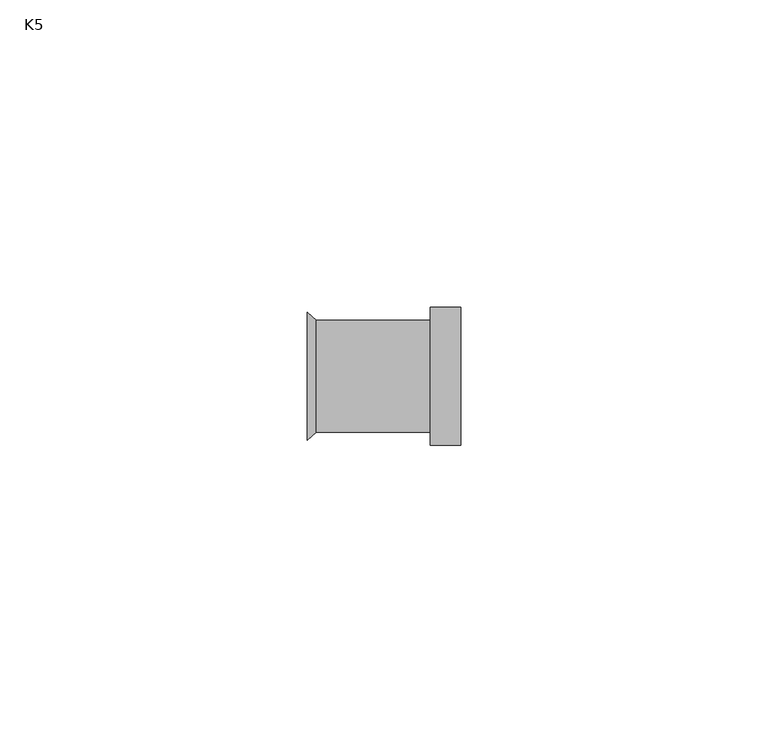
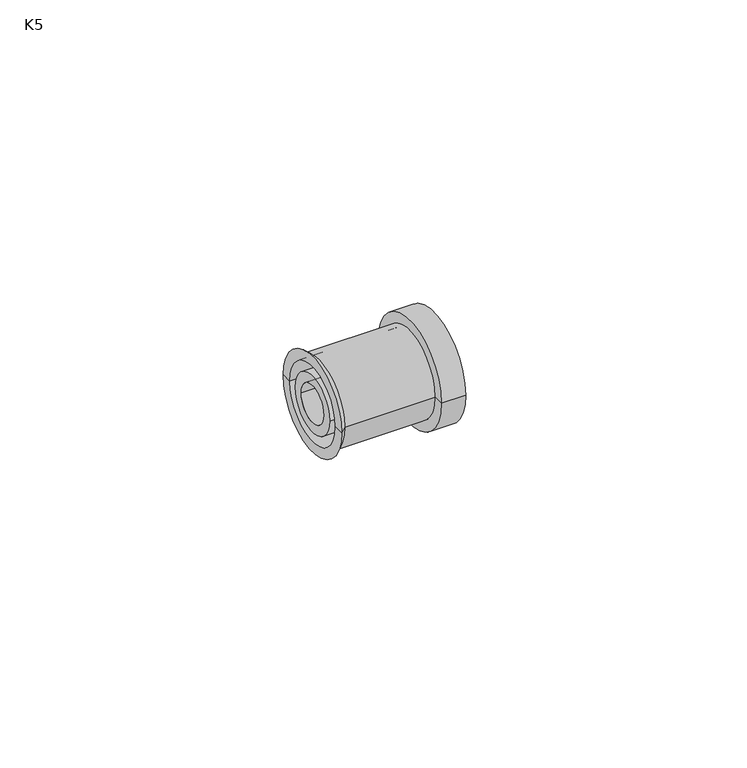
"""IFC4 building model written with IfcOpenShell, lengths in millimetres: pipe fitting geometry, AmancoWavin_ConexõesdeTubos_K5ZNãoUsarCampana : K5."""

from ifc_helpers import new_model, si_unit, point, frame, origin, origin_2d, place, context, project, spatial, polyline, circle_curve, trimmed, segment, composite_curve, outline, extrude, source, transform, mapped, element, save
from ifc_brep_helpers import plane_surface, cylinder_surface, revolved_surface, advanced_brep


def k5_c3ecb90c(model_context):
    return source(origin(), model_context, "Body", "SolidModel", [
        advanced_brep(
        [(-5.0, -9.1, 0.0), (-5.0, 9.1, 0.0), (-5.0, 11.25, 0.0), (-5.0, -11.25, 0.0), (-23.5489984, -9.1, 0.0), (-23.5489984, 9.1, 0.0), (-25.0, -8.2, 0.0), (-25.0, 8.2, 0.0), (-25.0, 10.4, 0.0), (-25.0, -10.4, 0.0), (-5.0, -8.2, 0.0), (-5.0, 8.2, 0.0), (-5.0, 0.0, 0.0), (0.0, -11.25, 0.0), (0.0, 11.25, 0.0), (0.0, 0.0, 0.0)],
        [
            (0, 1, circle_curve(frame((-5.0, 0.0, 0.0), z_axis=(1.0, 0.0, 0.0), x_axis=(0.0, 1.0, 0.0)), 9.1)),
            (1, 2),
            (2, 3, circle_curve(frame((-5.0, 0.0, 0.0), z_axis=(-1.0, 0.0, 0.0), x_axis=(0.0, 1.0, 0.0)), 11.25)),
            (3, 0),
            (1, 0, circle_curve(frame((-5.0, 0.0, 0.0), z_axis=(1.0, 0.0, 0.0), x_axis=(0.0, 1.0, 0.0)), 9.1)),
            (3, 2, circle_curve(frame((-5.0, 0.0, 0.0), z_axis=(-1.0, 0.0, 0.0), x_axis=(0.0, 1.0, 0.0)), 11.25)),
            (4, 5, circle_curve(frame((-23.5489984, 0.0, 0.0), z_axis=(1.0, 0.0, 0.0), x_axis=(0.0, 1.0, 0.0)), 9.1)),
            (5, 1),
            (0, 4),
            (5, 4, circle_curve(frame((-23.5489984, 0.0, 0.0), z_axis=(1.0, 0.0, 0.0), x_axis=(0.0, 1.0, 0.0)), 9.1)),
            (6, 7, circle_curve(frame((-25.0, 0.0, 0.0), z_axis=(1.0, 0.0, 0.0), x_axis=(0.0, 1.0, 0.0)), 8.2)),
            (7, 8),
            (8, 9, circle_curve(frame((-25.0, 0.0, 0.0), z_axis=(-1.0, 0.0, 0.0), x_axis=(0.0, 1.0, 0.0)), 10.4)),
            (9, 6),
            (7, 6, circle_curve(frame((-25.0, 0.0, 0.0), z_axis=(1.0, 0.0, 0.0), x_axis=(0.0, 1.0, 0.0)), 8.2)),
            (9, 8, circle_curve(frame((-25.0, 0.0, 0.0), z_axis=(-1.0, 0.0, 0.0), x_axis=(0.0, 1.0, 0.0)), 10.4)),
            (10, 11, circle_curve(frame((-5.0, 0.0, 0.0), z_axis=(1.0, 0.0, 0.0), x_axis=(0.0, 1.0, 0.0)), 8.2)),
            (11, 7),
            (6, 10),
            (11, 10, circle_curve(frame((-5.0, 0.0, 0.0), z_axis=(1.0, 0.0, 0.0), x_axis=(0.0, 1.0, 0.0)), 8.2)),
            (12, 11),
            (10, 12),
            (13, 14, circle_curve(frame((0.0, 0.0, 0.0), z_axis=(1.0, 0.0, 0.0), x_axis=(0.0, 1.0, 0.0)), 11.25)),
            (14, 15),
            (15, 13),
            (14, 13, circle_curve(frame((0.0, 0.0, 0.0), z_axis=(1.0, 0.0, 0.0), x_axis=(0.0, 1.0, 0.0)), 11.25)),
            (2, 14),
            (13, 3),
            (8, 5),
            (4, 9),
        ],
        [
            plane_surface(frame((-5.0, 0.0, 0.0), z_axis=(-1.0, 0.0, 0.0), x_axis=(0.0, 1.0, 0.0))),
            cylinder_surface(frame((1999.0, 0.0, 0.0), z_axis=(-1.0, 0.0, 0.0), x_axis=(0.0, 1.0, 0.0)), 9.1),
            plane_surface(frame((-25.0, 0.0, 0.0), z_axis=(-1.0, 0.0, 0.0), x_axis=(0.0, 1.0, 0.0))),
            revolved_surface(polyline([(-25.0, 8.2, 0.0), (-5.0, 8.2, 0.0)]), (1999.0, 0.0, 0.0), (-1.0, 0.0, 0.0)),
            plane_surface(frame((0.0, 0.0, 0.0), z_axis=(1.0, 0.0, 0.0), x_axis=(0.0, 1.0, 0.0))),
            cylinder_surface(frame((1999.0, 0.0, 0.0), z_axis=(-1.0, 0.0, 0.0), x_axis=(0.0, 1.0, 0.0)), 11.25),
            revolved_surface(polyline([(-23.5489984, 9.1, 0.0), (-25.0, 10.4, 0.0)]), (1999.0, 0.0, 0.0), (-1.0, 0.0, 0.0)),
        ],
        [
            (0, [[1, 2, 3, 4]]),
            (0, [[5, -4, 6, -2]]),
            (1, [[7, 8, -1, 9]]),
            (1, [[10, -9, -5, -8]]),
            (2, [[11, 12, 13, 14]]),
            (2, [[15, -14, 16, -12]]),
            (3, [[17, 18, -11, 19]]),
            (3, [[20, -19, -15, -18]]),
            (0, [[21, -17, 22]]),
            (0, [[-22, -20, -21]]),
            (4, [[23, 24, 25]]),
            (4, [[26, -25, -24]]),
            (5, [[-3, 27, -23, 28]]),
            (5, [[-6, -28, -26, -27]]),
            (6, [[-13, 29, -7, 30]]),
            (6, [[-16, -30, -10, -29]]),
        ],
    ),
        extrude(outline(composite_curve([segment(trimmed(circle_curve(origin_2d(), 6.1), [point((-6.1, 0.0))], [point((6.1, 0.0))], False, "CARTESIAN"), True, "CONTINUOUS"), segment(trimmed(circle_curve(origin_2d(), 6.1), [point((6.1, 0.0))], [point((-6.1, 0.0))], False, "CARTESIAN"), True, "CONTINUOUS")], self_intersect=False), holes=[composite_curve([segment(trimmed(circle_curve(origin_2d(), 4.0), [point((-4.0, 0.0))], [point((4.0, 0.0))], True, "CARTESIAN"), True, "CONTINUOUS"), segment(trimmed(circle_curve(origin_2d(), 4.0), [point((4.0, 0.0))], [point((-4.0, 0.0))], True, "CARTESIAN"), True, "CONTINUOUS")], self_intersect=False)]), frame((-25.0, 0.0, 0.0), z_axis=(1.0, 0.0, 0.0), x_axis=(0.0, 1.0, 0.0)), (0.0, 0.0, 1.0), 25.0),
    ])


if __name__ == "__main__":
    model = new_model("IFC4")
    model_context = context("Model", 3, world=origin())
    ifc_project = project(units=[si_unit("LENGTHUNIT", "METRE", prefix="MILLI")], contexts=[model_context])
    site = spatial("IfcSite", under=ifc_project)
    building = spatial("IfcBuilding", under=site)
    placement = place(None, origin())
    k5_shape = k5_c3ecb90c(model_context)
    element("IfcPipeFitting", 1, ObjectType="AmancoWavin_ConexõesdeTubos_K5ZNãoUsarCampana : K5", at=placement, inside=building, context=model_context, shape_type="MappedRepresentation", body=[
        mapped(k5_shape, transform((0.0, 0.0, 0.0), x_axis=(1.0, 0.0, 0.0), y_axis=(0.0, 1.0, 0.0), z_axis=(0.0, 0.0, 1.0))),
    ])
    save(model, "model.ifc")
